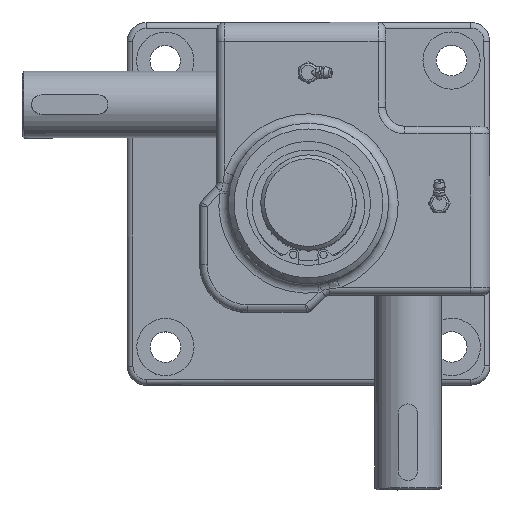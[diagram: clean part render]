
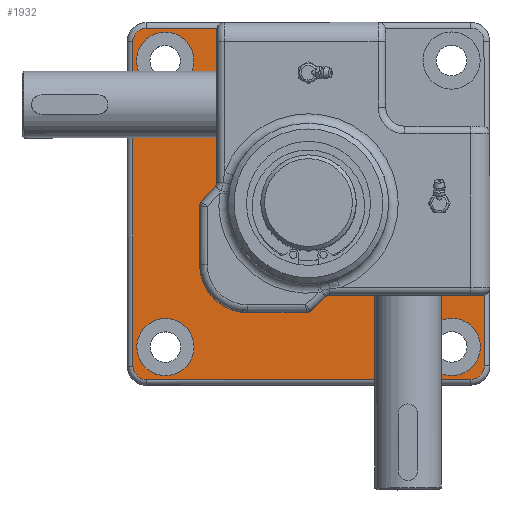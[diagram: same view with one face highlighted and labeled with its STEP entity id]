
A CAD part, top view. The second image highlights one B-rep face of the part: STEP entity #1932.
In plain terms, the highlighted planar face has unit normal (0, 0, 1).
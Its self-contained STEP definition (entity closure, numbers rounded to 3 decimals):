
#1932=ADVANCED_FACE('',(#5258,#5259,#5260,#5261),#5262,.T.);
#5258=FACE_OUTER_BOUND('',#10999,.T.);
#5259=FACE_BOUND('',#11000,.T.);
#5260=FACE_BOUND('',#11001,.T.);
#5261=FACE_BOUND('',#11002,.T.);
#5262=PLANE('',#11003);
#10999=EDGE_LOOP('',(#19559,#19560,#19561,#19562,#19563,#19564,#19565,#19566,#19567,#19568,#19569,#19570,#19571,#19572,#19573,#19574,#19575,#19576,#19577,#19578));
#11000=EDGE_LOOP('',(#19579));
#11001=EDGE_LOOP('',(#19580));
#11002=EDGE_LOOP('',(#19581));
#11003=AXIS2_PLACEMENT_3D('',#19582,#19583,#19584);
#19559=ORIENTED_EDGE('',*,*,#37905,.F.);
#19560=ORIENTED_EDGE('',*,*,#37906,.T.);
#19561=ORIENTED_EDGE('',*,*,#37907,.T.);
#19562=ORIENTED_EDGE('',*,*,#37908,.F.);
#19563=ORIENTED_EDGE('',*,*,#37909,.F.);
#19564=ORIENTED_EDGE('',*,*,#37910,.F.);
#19565=ORIENTED_EDGE('',*,*,#37911,.F.);
#19566=ORIENTED_EDGE('',*,*,#37912,.F.);
#19567=ORIENTED_EDGE('',*,*,#37653,.F.);
#19568=ORIENTED_EDGE('',*,*,#37913,.T.);
#19569=ORIENTED_EDGE('',*,*,#37405,.T.);
#19570=ORIENTED_EDGE('',*,*,#37914,.F.);
#19571=ORIENTED_EDGE('',*,*,#37915,.T.);
#19572=ORIENTED_EDGE('',*,*,#37353,.T.);
#19573=ORIENTED_EDGE('',*,*,#37555,.T.);
#19574=ORIENTED_EDGE('',*,*,#37916,.T.);
#19575=ORIENTED_EDGE('',*,*,#37917,.T.);
#19576=ORIENTED_EDGE('',*,*,#37918,.T.);
#19577=ORIENTED_EDGE('',*,*,#37622,.T.);
#19578=ORIENTED_EDGE('',*,*,#37629,.F.);
#19579=ORIENTED_EDGE('',*,*,#37919,.F.);
#19580=ORIENTED_EDGE('',*,*,#37789,.F.);
#19581=ORIENTED_EDGE('',*,*,#37920,.F.);
#19582=CARTESIAN_POINT('',(0.0,0.,-45.0));
#19583=DIRECTION('',(0.,0.,1.0));
#19584=DIRECTION('',(1.0,0.,0.));
#37353=EDGE_CURVE('',#44596,#44601,#44603,.T.);
#37405=EDGE_CURVE('',#44702,#44703,#44704,.T.);
#37555=EDGE_CURVE('',#44601,#44973,#44975,.T.);
#37622=EDGE_CURVE('',#45097,#45098,#45099,.T.);
#37629=EDGE_CURVE('',#45109,#45098,#45111,.T.);
#37653=EDGE_CURVE('',#45151,#45153,#45154,.T.);
#37789=EDGE_CURVE('',#45387,#45387,#45388,.T.);
#37905=EDGE_CURVE('',#45566,#45109,#45567,.T.);
#37906=EDGE_CURVE('',#45566,#45568,#45569,.T.);
#37907=EDGE_CURVE('',#45568,#45570,#45571,.T.);
#37908=EDGE_CURVE('',#45572,#45570,#45573,.T.);
#37909=EDGE_CURVE('',#45574,#45572,#45575,.T.);
#37910=EDGE_CURVE('',#45576,#45574,#45577,.T.);
#37911=EDGE_CURVE('',#45578,#45576,#45579,.T.);
#37912=EDGE_CURVE('',#45153,#45578,#45580,.T.);
#37913=EDGE_CURVE('',#45151,#44702,#45581,.T.);
#37914=EDGE_CURVE('',#45582,#44703,#45583,.T.);
#37915=EDGE_CURVE('',#45582,#44596,#45584,.T.);
#37916=EDGE_CURVE('',#44973,#45585,#45586,.T.);
#37917=EDGE_CURVE('',#45585,#45587,#45588,.T.);
#37918=EDGE_CURVE('',#45587,#45097,#45589,.T.);
#37919=EDGE_CURVE('',#45590,#45590,#45591,.T.);
#37920=EDGE_CURVE('',#45592,#45592,#45593,.T.);
#44596=VERTEX_POINT('',#57288);
#44601=VERTEX_POINT('',#57293);
#44603=CIRCLE('',#57295,7.0);
#44702=VERTEX_POINT('',#57418);
#44703=VERTEX_POINT('',#57419);
#44704=LINE('',#57420,#57421);
#44973=VERTEX_POINT('',#58164);
#44975=LINE('',#58166,#58167);
#45097=VERTEX_POINT('',#58316);
#45098=VERTEX_POINT('',#58317);
#45099=LINE('',#58318,#58319);
#45109=VERTEX_POINT('',#58350);
#45111=CIRCLE('',#58353,4.0);
#45151=VERTEX_POINT('',#58405);
#45153=VERTEX_POINT('',#58408);
#45154=LINE('',#58409,#58410);
#45387=VERTEX_POINT('',#58776);
#45388=CIRCLE('',#58777,15.0);
#45566=VERTEX_POINT('',#59179);
#45567=LINE('',#59180,#59181);
#45568=VERTEX_POINT('',#59182);
#45569=CIRCLE('',#59183,3.0);
#45570=VERTEX_POINT('',#59184);
#45571=LINE('',#59185,#59186);
#45572=VERTEX_POINT('',#59187);
#45573=CIRCLE('',#59188,3.0);
#45574=VERTEX_POINT('',#59189);
#45575=LINE('',#59190,#59191);
#45576=VERTEX_POINT('',#59192);
#45577=CIRCLE('',#59193,25.0);
#45578=VERTEX_POINT('',#59194);
#45579=LINE('',#59195,#59196);
#45580=CIRCLE('',#59197,3.0);
#45581=CIRCLE('',#59198,3.0);
#45582=VERTEX_POINT('',#59199);
#45583=CIRCLE('',#59200,4.0);
#45584=LINE('',#59201,#59202);
#45585=VERTEX_POINT('',#59203);
#45586=CIRCLE('',#59204,7.0);
#45587=VERTEX_POINT('',#59205);
#45588=LINE('',#59206,#59207);
#45589=CIRCLE('',#59208,7.0);
#45590=VERTEX_POINT('',#59209);
#45591=CIRCLE('',#59210,15.0);
#45592=VERTEX_POINT('',#59211);
#45593=CIRCLE('',#59212,15.0);
#57288=CARTESIAN_POINT('',(-85.0,92.0,-45.0));
#57293=CARTESIAN_POINT('',(-92.0,85.,-45.0));
#57295=AXIS2_PLACEMENT_3D('',#74244,#74245,#74246);
#57418=CARTESIAN_POINT('',(-48.0,11.147,-45.0));
#57419=CARTESIAN_POINT('',(-48.0,91.0,-45.0));
#57420=CARTESIAN_POINT('',(-48.0,51.074,-45.0));
#57421=VECTOR('',#74352,1.0);
#58164=CARTESIAN_POINT('',(-92.0,-85.0,-45.0));
#58166=CARTESIAN_POINT('',(-92.0,0.,-45.0));
#58167=VECTOR('',#74610,1.0);
#58316=CARTESIAN_POINT('',(92.0,-85.,-45.0));
#58317=CARTESIAN_POINT('',(92.0,-47.873,-45.0));
#58318=CARTESIAN_POINT('',(92.0,0.,-45.0));
#58319=VECTOR('',#74755,1.0);
#58350=CARTESIAN_POINT('',(91.0,-48.0,-45.0));
#58353=AXIS2_PLACEMENT_3D('',#74765,#74766,#74767);
#58405=CARTESIAN_POINT('',(-48.771,9.14,-45.0));
#58408=CARTESIAN_POINT('',(-56.229,0.856,-45.0));
#58409=CARTESIAN_POINT('',(-52.5,4.998,-45.0));
#58410=VECTOR('',#74811,1.0);
#58776=CARTESIAN_POINT('',(-60.0,-75.0,-45.0));
#58777=AXIS2_PLACEMENT_3D('',#75079,#75080,#75081);
#59179=CARTESIAN_POINT('',(11.147,-48.0,-45.0));
#59180=CARTESIAN_POINT('',(51.074,-48.0,-45.0));
#59181=VECTOR('',#75322,1.0);
#59182=CARTESIAN_POINT('',(9.14,-48.771,-45.0));
#59183=AXIS2_PLACEMENT_3D('',#75323,#75324,#75325);
#59184=CARTESIAN_POINT('',(0.856,-56.229,-45.0));
#59185=CARTESIAN_POINT('',(4.998,-52.5,-45.0));
#59186=VECTOR('',#75326,1.0);
#59187=CARTESIAN_POINT('',(-1.152,-57.0,-45.0));
#59188=AXIS2_PLACEMENT_3D('',#75327,#75328,#75329);
#59189=CARTESIAN_POINT('',(-32.0,-57.0,-45.0));
#59190=CARTESIAN_POINT('',(-16.576,-57.0,-45.0));
#59191=VECTOR('',#75330,1.0);
#59192=CARTESIAN_POINT('',(-57.0,-32.0,-45.0));
#59193=AXIS2_PLACEMENT_3D('',#75331,#75332,#75333);
#59194=CARTESIAN_POINT('',(-57.0,-1.152,-45.0));
#59195=CARTESIAN_POINT('',(-57.0,-16.576,-45.0));
#59196=VECTOR('',#75334,1.0);
#59197=AXIS2_PLACEMENT_3D('',#75335,#75336,#75337);
#59198=AXIS2_PLACEMENT_3D('',#75338,#75339,#75340);
#59199=CARTESIAN_POINT('',(-47.873,92.0,-45.0));
#59200=AXIS2_PLACEMENT_3D('',#75341,#75342,#75343);
#59201=CARTESIAN_POINT('',(-66.436,92.0,-45.0));
#59202=VECTOR('',#75344,1.0);
#59203=CARTESIAN_POINT('',(-85.,-92.0,-45.0));
#59204=AXIS2_PLACEMENT_3D('',#75345,#75346,#75347);
#59205=CARTESIAN_POINT('',(85.0,-92.0,-45.0));
#59206=CARTESIAN_POINT('',(0.,-92.0,-45.0));
#59207=VECTOR('',#75348,1.0);
#59208=AXIS2_PLACEMENT_3D('',#75349,#75350,#75351);
#59209=CARTESIAN_POINT('',(90.0,-75.0,-45.0));
#59210=AXIS2_PLACEMENT_3D('',#75352,#75353,#75354);
#59211=CARTESIAN_POINT('',(-60.0,75.0,-45.0));
#59212=AXIS2_PLACEMENT_3D('',#75355,#75356,#75357);
#74244=CARTESIAN_POINT('',(-85.0,85.0,-45.0));
#74245=DIRECTION('',(0.0,0.0,1.0));
#74246=DIRECTION('',(1.0,0.0,0.0));
#74352=DIRECTION('',(0.0,1.0,0.));
#74610=DIRECTION('',(0.0,-1.0,0.));
#74755=DIRECTION('',(0.0,1.0,0.));
#74765=CARTESIAN_POINT('',(91.0,-44.0,-45.0));
#74766=DIRECTION('',(0.,0.0,1.0));
#74767=DIRECTION('',(1.0,0.0,0.));
#74811=DIRECTION('',(-0.669,-0.743,0.0));
#75079=CARTESIAN_POINT('',(-75.0,-75.0,-45.0));
#75080=DIRECTION('',(0.,0.,1.0));
#75081=DIRECTION('',(1.0,0.,0.));
#75322=DIRECTION('',(1.0,0.0,0.));
#75323=CARTESIAN_POINT('',(11.147,-51.0,-45.0));
#75324=DIRECTION('',(0.,0.,1.0));
#75325=DIRECTION('',(1.0,0.,0.));
#75326=DIRECTION('',(-0.743,-0.669,0.0));
#75327=CARTESIAN_POINT('',(-1.152,-54.0,-45.0));
#75328=DIRECTION('',(0.,0.,1.0));
#75329=DIRECTION('',(1.0,0.,0.));
#75330=DIRECTION('',(1.0,0.0,0.0));
#75331=CARTESIAN_POINT('',(-32.0,-32.0,-45.0));
#75332=DIRECTION('',(0.,0.,1.0));
#75333=DIRECTION('',(1.0,0.,0.));
#75334=DIRECTION('',(0.0,-1.0,0.0));
#75335=CARTESIAN_POINT('',(-54.0,-1.152,-45.0));
#75336=DIRECTION('',(0.,0.,1.0));
#75337=DIRECTION('',(1.0,0.,0.));
#75338=CARTESIAN_POINT('',(-51.0,11.147,-45.0));
#75339=DIRECTION('',(0.,0.,1.0));
#75340=DIRECTION('',(1.0,0.,0.));
#75341=CARTESIAN_POINT('',(-44.0,91.0,-45.0));
#75342=DIRECTION('',(0.,0.,1.0));
#75343=DIRECTION('',(1.0,0.,0.));
#75344=DIRECTION('',(-1.0,0.0,0.0));
#75345=CARTESIAN_POINT('',(-85.0,-85.0,-45.0));
#75346=DIRECTION('',(0.0,0.0,1.0));
#75347=DIRECTION('',(1.0,0.0,0.0));
#75348=DIRECTION('',(1.0,0.0,0.));
#75349=CARTESIAN_POINT('',(85.0,-85.0,-45.0));
#75350=DIRECTION('',(0.0,0.0,1.0));
#75351=DIRECTION('',(1.0,0.0,0.0));
#75352=CARTESIAN_POINT('',(75.0,-75.0,-45.0));
#75353=DIRECTION('',(0.,0.,1.0));
#75354=DIRECTION('',(1.0,0.,0.));
#75355=CARTESIAN_POINT('',(-75.0,75.0,-45.0));
#75356=DIRECTION('',(0.,0.,1.0));
#75357=DIRECTION('',(1.0,0.,0.));
